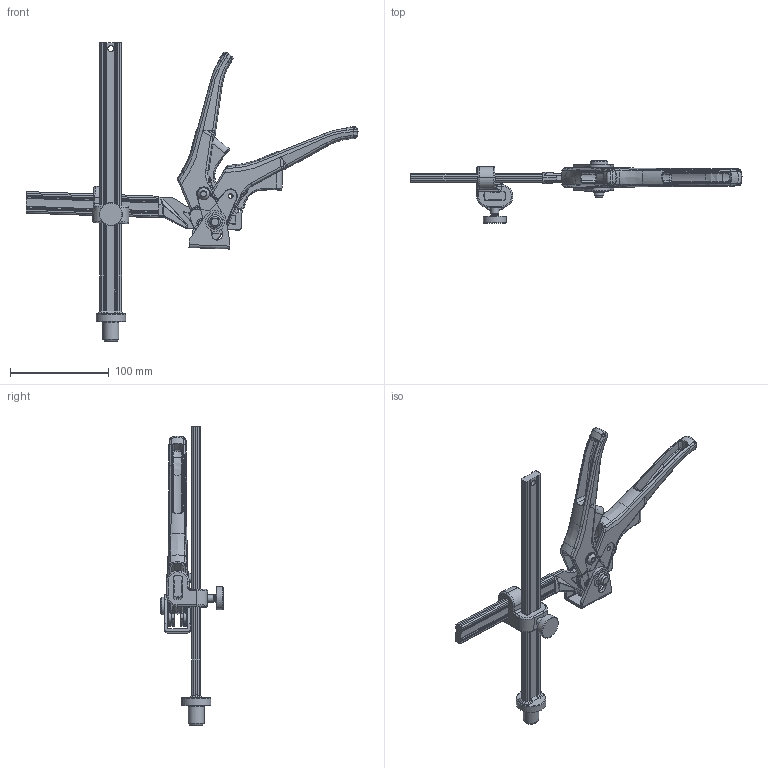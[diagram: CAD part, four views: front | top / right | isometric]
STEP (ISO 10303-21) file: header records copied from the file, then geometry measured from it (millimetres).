
FILE_DESCRIPTION( ('This file contains a STEP AP42 implementation' ,'as created by ZW3D STEP Interface translator.') ,'2;1' );
FILE_NAME( 'TWV16-20-15H.stp' ,'25 6 5.113548', (''), ('ZWCAD Software Co.'), 'Version 1.0', 'ZW3D to STEP translator', '' );
FILE_SCHEMA(('AUTOMOTIVE_DESIGN { 1 0 10303 214 1 1 1 1 }'));
Length unit declared in the file: millimetre
Products named in the file (25): 0; TWV16-20-15H; 1; 1.1; 2; 3; 3.1; 3.1.1; 3.1.1.1; 3.1.2; 3.1.3; 3.2; 3.2.1; 3.2.2; 3.3; 3.4; 3.5; 3.6; 3.7; 3.8; 3.9; 3.9.1; 3.1_1; 3.2_1; 4
Assembly tree (30 placements, depth 5):
  0
  TWV16-20-15H
    1
      1.1
    2
    3
      3.1
        3.1.1
          3.1.1.1
        3.1.2
        3.1.3
      3.2
        3.2.1
        3.2.2  x2
      3.3
      3.4
      3.5
      3.6
      3.7
      3.8
      3.9
        3.9.1
      3.1_1
        3.1.1
          3.1.1.1
        3.1.2
        3.1.3
      3.2_1
        3.2.1
        3.2.2  x2
    4
Bounding box: 336.85 x 63.76 x 303 mm (x, y, z)
Volume: 224764.9 mm3; surface area: 123878 mm2
Topology: 23 solids, 23 shells, 2322 faces, 6299 edges, 4016 vertices
Faces by surface type: plane 1253, bspline 486, cylinder 433, cone 84, torus 50, sphere 16
Full cylindrical faces by diameter (mm): 4 x2, 4.8 x1, 5 x10, 6 x10, 6.8 x1, 7 x1, 8 x2, 9 x8, 10 x7, 11.1 x1, 12 x1, 15 x8, 16 x1, 18 x1, 19 x1, 23.5 x1, 30 x1
Entity records: 61604 total; most frequent: CARTESIAN_POINT 27177, ORIENTED_EDGE 7408, DIRECTION 5937, EDGE_CURVE 3704, VERTEX_POINT 2341, VECTOR 2141, LINE 2141, AXIS2_PLACEMENT_3D 1898
